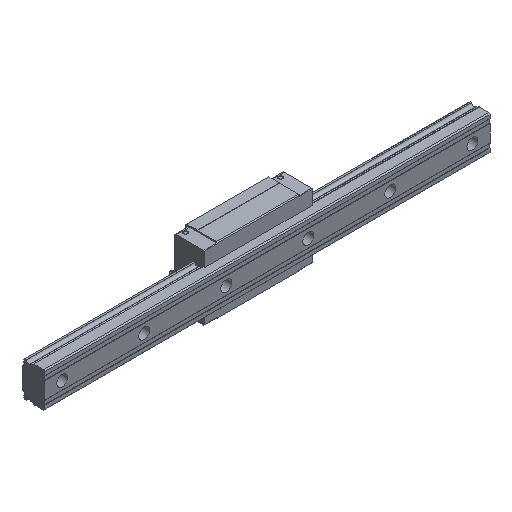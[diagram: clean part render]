
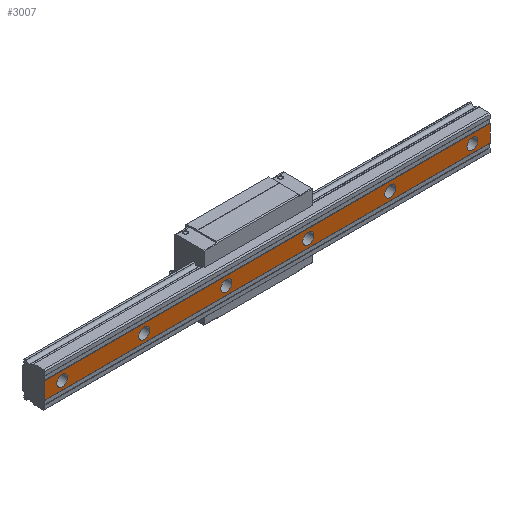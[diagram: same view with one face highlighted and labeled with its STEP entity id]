
A CAD part, isometric view. The second image highlights one B-rep face of the part: STEP entity #3007.
In plain terms, the highlighted planar face has unit normal (0, -1, 0).
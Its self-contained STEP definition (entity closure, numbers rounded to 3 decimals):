
#105=CIRCLE('',#3240,7.);
#106=CIRCLE('',#3241,7.);
#107=CIRCLE('',#3242,7.);
#108=CIRCLE('',#3243,7.);
#109=CIRCLE('',#3244,7.);
#110=CIRCLE('',#3245,7.);
#357=ORIENTED_EDGE('',*,*,#1190,.F.);
#358=ORIENTED_EDGE('',*,*,#1191,.F.);
#359=ORIENTED_EDGE('',*,*,#1192,.F.);
#360=ORIENTED_EDGE('',*,*,#1193,.F.);
#361=ORIENTED_EDGE('',*,*,#1194,.F.);
#362=ORIENTED_EDGE('',*,*,#1195,.F.);
#363=ORIENTED_EDGE('',*,*,#1196,.T.);
#364=ORIENTED_EDGE('',*,*,#1197,.F.);
#365=ORIENTED_EDGE('',*,*,#1198,.F.);
#366=ORIENTED_EDGE('',*,*,#1188,.T.);
#1188=EDGE_CURVE('',#1599,#1598,#1909,.T.);
#1190=EDGE_CURVE('',#1600,#1600,#105,.T.);
#1191=EDGE_CURVE('',#1601,#1601,#106,.T.);
#1192=EDGE_CURVE('',#1602,#1602,#107,.T.);
#1193=EDGE_CURVE('',#1603,#1603,#108,.T.);
#1194=EDGE_CURVE('',#1604,#1604,#109,.T.);
#1195=EDGE_CURVE('',#1605,#1605,#110,.T.);
#1196=EDGE_CURVE('',#1598,#1606,#1911,.T.);
#1197=EDGE_CURVE('',#1607,#1606,#1912,.T.);
#1198=EDGE_CURVE('',#1599,#1607,#1913,.T.);
#1598=VERTEX_POINT('',#4553);
#1599=VERTEX_POINT('',#4555);
#1600=VERTEX_POINT('',#4559);
#1601=VERTEX_POINT('',#4561);
#1602=VERTEX_POINT('',#4563);
#1603=VERTEX_POINT('',#4565);
#1604=VERTEX_POINT('',#4567);
#1605=VERTEX_POINT('',#4569);
#1606=VERTEX_POINT('',#4571);
#1607=VERTEX_POINT('',#4573);
#1909=LINE('',#4554,#2159);
#1911=LINE('',#4570,#2161);
#1912=LINE('',#4572,#2162);
#1913=LINE('',#4574,#2163);
#2159=VECTOR('',#3630,1000.);
#2161=VECTOR('',#3646,1000.);
#2162=VECTOR('',#3647,1000.);
#2163=VECTOR('',#3648,1000.);
#2392=EDGE_LOOP('',(#357));
#2393=EDGE_LOOP('',(#358));
#2394=EDGE_LOOP('',(#359));
#2395=EDGE_LOOP('',(#360));
#2396=EDGE_LOOP('',(#361));
#2397=EDGE_LOOP('',(#362));
#2398=EDGE_LOOP('',(#363,#364,#365,#366));
#2647=FACE_BOUND('',#2392,.T.);
#2648=FACE_BOUND('',#2393,.T.);
#2649=FACE_BOUND('',#2394,.T.);
#2650=FACE_BOUND('',#2395,.T.);
#2651=FACE_BOUND('',#2396,.T.);
#2652=FACE_BOUND('',#2397,.T.);
#2653=FACE_BOUND('',#2398,.T.);
#2903=PLANE('',#3239);
#3007=ADVANCED_FACE('',(#2647,#2648,#2649,#2650,#2651,#2652,#2653),#2903,
 .F.);
#3239=AXIS2_PLACEMENT_3D('',#4557,#3632,#3633);
#3240=AXIS2_PLACEMENT_3D('',#4558,#3634,#3635);
#3241=AXIS2_PLACEMENT_3D('',#4560,#3636,#3637);
#3242=AXIS2_PLACEMENT_3D('',#4562,#3638,#3639);
#3243=AXIS2_PLACEMENT_3D('',#4564,#3640,#3641);
#3244=AXIS2_PLACEMENT_3D('',#4566,#3642,#3643);
#3245=AXIS2_PLACEMENT_3D('',#4568,#3644,#3645);
#3630=DIRECTION('',(-1.,0.,0.));
#3632=DIRECTION('',(0.,1.,0.));
#3633=DIRECTION('',(0.,0.,1.));
#3634=DIRECTION('',(0.,-1.,0.));
#3635=DIRECTION('',(0.,0.,-1.));
#3636=DIRECTION('',(0.,-1.,0.));
#3637=DIRECTION('',(0.,0.,-1.));
#3638=DIRECTION('',(0.,-1.,0.));
#3639=DIRECTION('',(0.,0.,-1.));
#3640=DIRECTION('',(0.,-1.,0.));
#3641=DIRECTION('',(0.,0.,-1.));
#3642=DIRECTION('',(0.,-1.,0.));
#3643=DIRECTION('',(0.,0.,-1.));
#3644=DIRECTION('',(0.,-1.,0.));
#3645=DIRECTION('',(0.,0.,-1.));
#3646=DIRECTION('',(0.,0.,-1.));
#3647=DIRECTION('',(-1.,0.,0.));
#3648=DIRECTION('',(0.,0.,-1.));
#4553=CARTESIAN_POINT('',(-22.5,0.,10.8));
#4554=CARTESIAN_POINT('',(547.5,0.,10.8));
#4555=CARTESIAN_POINT('',(547.5,0.,10.8));
#4557=CARTESIAN_POINT('',(547.5,0.,10.8));
#4558=CARTESIAN_POINT('',(105.,0.,0.));
#4559=CARTESIAN_POINT('',(105.,0.,-7.));
#4560=CARTESIAN_POINT('',(210.,0.,0.));
#4561=CARTESIAN_POINT('',(210.,0.,-7.));
#4562=CARTESIAN_POINT('',(315.,0.,0.));
#4563=CARTESIAN_POINT('',(315.,0.,-7.));
#4564=CARTESIAN_POINT('',(420.,0.,0.));
#4565=CARTESIAN_POINT('',(420.,0.,-7.));
#4566=CARTESIAN_POINT('',(525.,0.,0.));
#4567=CARTESIAN_POINT('',(525.,0.,-7.));
#4568=CARTESIAN_POINT('',(0.,0.,0.));
#4569=CARTESIAN_POINT('',(0.,0.,-7.));
#4570=CARTESIAN_POINT('',(-22.5,0.,10.8));
#4571=CARTESIAN_POINT('',(-22.5,0.,-10.8));
#4572=CARTESIAN_POINT('',(547.5,0.,-10.8));
#4573=CARTESIAN_POINT('',(547.5,0.,-10.8));
#4574=CARTESIAN_POINT('',(547.5,0.,10.8));
